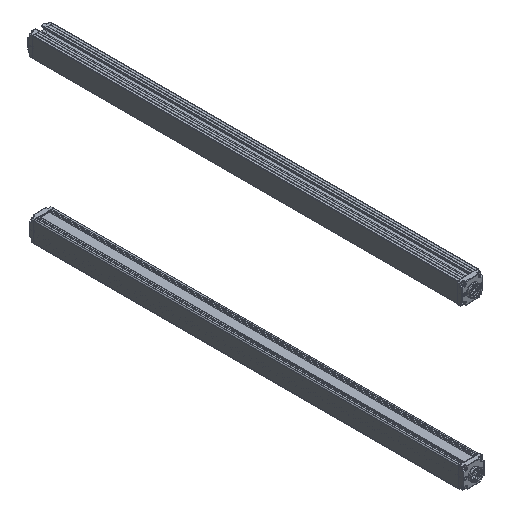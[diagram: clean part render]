
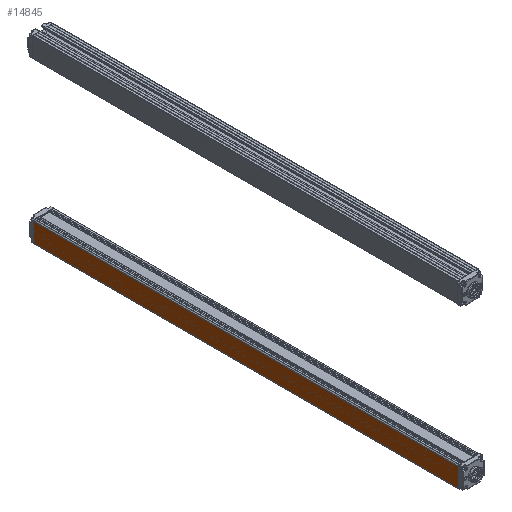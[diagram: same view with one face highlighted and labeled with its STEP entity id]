
A CAD part, isometric view. The second image highlights one B-rep face of the part: STEP entity #14845.
In plain terms, the highlighted planar face has unit normal (-1, 0, -0.009) as drawn and (1, 0, 0) by its records, which use the part's own axes.
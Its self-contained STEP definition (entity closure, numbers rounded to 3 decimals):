
#261 = ORIENTED_EDGE ( 'NONE', *, *, #15239, .T. ) ;
#558 = ORIENTED_EDGE ( 'NONE', *, *, #13800, .T. ) ;
#1095 = VERTEX_POINT ( 'NONE', #1861 ) ;
#1133 = DIRECTION ( 'NONE',  ( 0., 1., 0. ) ) ;
#1205 = EDGE_LOOP ( 'NONE', ( #558, #261, #8776, #10885 ) ) ;
#1411 = DIRECTION ( 'NONE',  ( -1., 0., 0. ) ) ;
#1861 = CARTESIAN_POINT ( 'NONE',  ( 15., 610., 10.9 ) ) ;
#2230 = VECTOR ( 'NONE', #8463, 1000. ) ;
#2336 = DIRECTION ( 'NONE',  ( 0., 0., -1. ) ) ;
#2769 = FACE_OUTER_BOUND ( 'NONE', #1205, .T. ) ;
#2901 = CARTESIAN_POINT ( 'NONE',  ( 15., 0., -16.9 ) ) ;
#4590 = VERTEX_POINT ( 'NONE', #5017 ) ;
#5017 = CARTESIAN_POINT ( 'NONE',  ( 15., 610., -16.693 ) ) ;
#5324 = LINE ( 'NONE', #10886, #8580 ) ;
#6576 = AXIS2_PLACEMENT_3D ( 'NONE', #13890, #1411, #6962 ) ;
#6962 = DIRECTION ( 'NONE',  ( 0., 0., 1. ) ) ;
#7794 = VECTOR ( 'NONE', #2336, 1000. ) ;
#7968 = VERTEX_POINT ( 'NONE', #12398 ) ;
#8053 = LINE ( 'NONE', #13614, #16189 ) ;
#8329 = PLANE ( 'NONE',  #6576 ) ;
#8463 = DIRECTION ( 'NONE',  ( 0., 0., -1. ) ) ;
#8580 = VECTOR ( 'NONE', #16434, 1000. ) ;
#8600 = VERTEX_POINT ( 'NONE', #11802 ) ;
#8776 = ORIENTED_EDGE ( 'NONE', *, *, #16489, .F. ) ;
#9251 = LINE ( 'NONE', #14806, #7794 ) ;
#10885 = ORIENTED_EDGE ( 'NONE', *, *, #12746, .T. ) ;
#10886 = CARTESIAN_POINT ( 'NONE',  ( 15., 610., 10.9 ) ) ;
#11802 = CARTESIAN_POINT ( 'NONE',  ( 15., 0., 10.9 ) ) ;
#12398 = CARTESIAN_POINT ( 'NONE',  ( 15., 0., -16.693 ) ) ;
#12746 = EDGE_CURVE ( 'NONE', #1095, #8600, #5324, .T. ) ;
#13614 = CARTESIAN_POINT ( 'NONE',  ( 15., 610., -16.693 ) ) ;
#13800 = EDGE_CURVE ( 'NONE', #8600, #7968, #15379, .T. ) ;
#13890 = CARTESIAN_POINT ( 'NONE',  ( 15., 610., -16.9 ) ) ;
#14806 = CARTESIAN_POINT ( 'NONE',  ( 15., 610., -16.9 ) ) ;
#14845 = ADVANCED_FACE ( 'NONE', ( #2769 ), #8329, .F. ) ;
#15239 = EDGE_CURVE ( 'NONE', #7968, #4590, #8053, .T. ) ;
#15379 = LINE ( 'NONE', #2901, #2230 ) ;
#16189 = VECTOR ( 'NONE', #1133, 1000. ) ;
#16434 = DIRECTION ( 'NONE',  ( 0., -1., 0. ) ) ;
#16489 = EDGE_CURVE ( 'NONE', #1095, #4590, #9251, .T. ) ;
